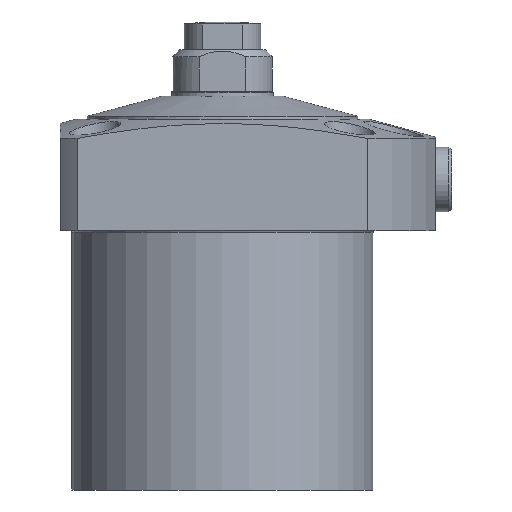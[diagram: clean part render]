
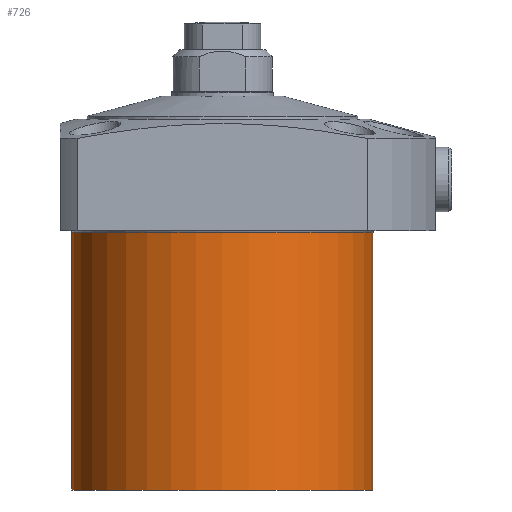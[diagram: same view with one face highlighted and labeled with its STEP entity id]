
A CAD part, front view. The second image highlights one B-rep face of the part: STEP entity #726.
In plain terms, the highlighted cylindrical face has radius 32.5 mm (diameter 65 mm), a partial arc.
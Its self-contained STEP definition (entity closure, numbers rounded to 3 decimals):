
#726=ADVANCED_FACE('',(#890),#833,.T.);
#833=CYLINDRICAL_SURFACE('',#2494,32.5);
#890=FACE_OUTER_BOUND('',#1001,.T.);
#1001=EDGE_LOOP('',(#1503,#1504,#1505,#1506));
#1139=LINE('',#3514,#1263);
#1140=LINE('',#3516,#1264);
#1263=VECTOR('',#2784,1.);
#1264=VECTOR('',#2787,1.);
#1503=ORIENTED_EDGE('',*,*,#2111,.F.);
#1504=ORIENTED_EDGE('',*,*,#2159,.T.);
#1505=ORIENTED_EDGE('',*,*,#2113,.T.);
#1506=ORIENTED_EDGE('',*,*,#2106,.T.);
#1937=VERTEX_POINT('',#3503);
#1938=VERTEX_POINT('',#3504);
#1941=VERTEX_POINT('',#3512);
#1942=VERTEX_POINT('',#3513);
#2106=EDGE_CURVE('',#1937,#1938,#2323,.T.);
#2111=EDGE_CURVE('',#1942,#1938,#1139,.T.);
#2113=EDGE_CURVE('',#1941,#1937,#1140,.T.);
#2159=EDGE_CURVE('',#1942,#1941,#2345,.T.);
#2323=CIRCLE('',#2456,32.5);
#2345=CIRCLE('',#2492,32.5);
#2456=AXIS2_PLACEMENT_3D('',#3502,#2772,#2773);
#2492=AXIS2_PLACEMENT_3D('',#3728,#2862,#2863);
#2494=AXIS2_PLACEMENT_3D('',#3730,#2866,#2867);
#2772=DIRECTION('',(0.,0.,-1.));
#2773=DIRECTION('',(-1.,0.,0.));
#2784=DIRECTION('',(0.,0.,1.));
#2787=DIRECTION('',(0.,0.,1.));
#2862=DIRECTION('',(0.,0.,1.));
#2863=DIRECTION('',(1.,0.,0.));
#2866=DIRECTION('',(0.,0.,1.));
#2867=DIRECTION('',(-1.,0.,0.));
#3502=CARTESIAN_POINT('',(0.,0.,-0.4));
#3503=CARTESIAN_POINT('',(32.5,0.,-0.4));
#3504=CARTESIAN_POINT('',(-32.5,0.,-0.4));
#3512=CARTESIAN_POINT('',(32.5,0.,-56.));
#3513=CARTESIAN_POINT('',(-32.5,0.,-56.));
#3514=CARTESIAN_POINT('',(-32.5,0.,100.));
#3516=CARTESIAN_POINT('',(32.5,0.,100.));
#3728=CARTESIAN_POINT('',(0.,0.,-56.));
#3730=CARTESIAN_POINT('',(0.,0.,100.));
